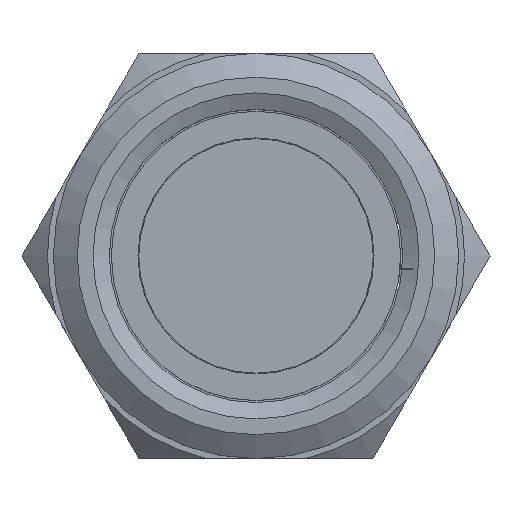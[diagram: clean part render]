
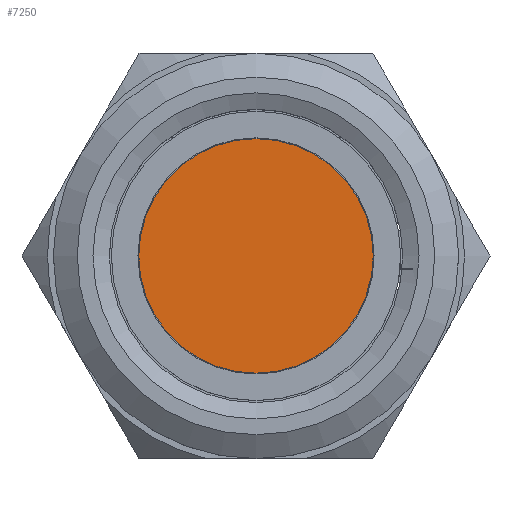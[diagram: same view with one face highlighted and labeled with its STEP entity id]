
A CAD part, top view. The second image highlights one B-rep face of the part: STEP entity #7250.
In plain terms, the highlighted planar face has unit normal (0, 0, 1).
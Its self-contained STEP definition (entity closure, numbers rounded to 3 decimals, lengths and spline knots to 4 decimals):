
#1220=CIRCLE('',#31167,7.175);
#6307=PLANE('',#31169);
#7250=ADVANCED_FACE('',(#8633),#6307,.F.);
#8633=FACE_OUTER_BOUND('',#9886,.T.);
#9886=EDGE_LOOP('',(#17289));
#17289=ORIENTED_EDGE('',*,*,#27077,.F.);
#24551=VERTEX_POINT('',#43163);
#27077=EDGE_CURVE('',#24551,#24551,#1220,.T.);
#31167=AXIS2_PLACEMENT_3D('',#43162,#33283,#33284);
#31169=AXIS2_PLACEMENT_3D('',#43165,#33287,#33288);
#33283=DIRECTION('',(0.,0.,-1.));
#33284=DIRECTION('',(-1.,0.,0.));
#33287=DIRECTION('',(0.,0.,-1.));
#33288=DIRECTION('',(-1.,0.,0.));
#43162=CARTESIAN_POINT('',(-277.9014,189.6583,15.35));
#43163=CARTESIAN_POINT('',(-285.0764,189.6583,15.35));
#43165=CARTESIAN_POINT('',(-277.9014,189.6583,15.35));
